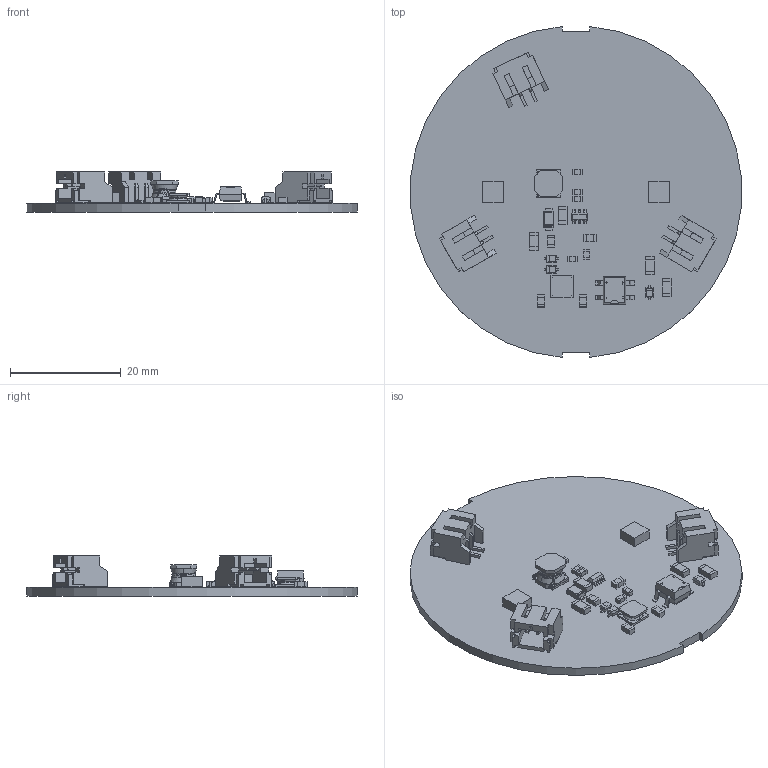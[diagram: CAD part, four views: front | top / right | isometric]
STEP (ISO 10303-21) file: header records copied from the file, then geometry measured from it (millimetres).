
FILE_DESCRIPTION(('STEP AP214'),'1');
FILE_NAME('DDS1105.stp','2020-06-12T13:00:28',(' '),(' '),'Spatial InterOp 3D',' ',' ');
FILE_SCHEMA(('AUTOMOTIVE_DESIGN { 1 0 10303 214 1 1 1 1 }'));
Products named in the file (27): BOARD; C5; P1; U1; R4; C3; C6; P3; LD2; JS2; D2; PD1; D1; D3; JS1; R1; R2; P2; TVS1; LD1; R3; L2; C2; L1; C4; C1; F1
Bounding box: 59.77 x 59.79 x 7.24 mm (x, y, z)
Volume: 5308.6 mm3; surface area: 8054.2 mm2
Topology: 38 solids, 38 shells, 1085 faces, 2791 edges, 1814 vertices
Faces by surface type: plane 880, cylinder 117, bspline 80, torus 8
Entity records: 52308 total; most frequent: CARTESIAN_POINT 16915, ORIENTED_EDGE 5578, DIRECTION 4960, EDGE_CURVE 2789, LINE 2346, VECTOR 2346, VERTEX_POINT 1814, AXIS2_PLACEMENT_3D 1307
